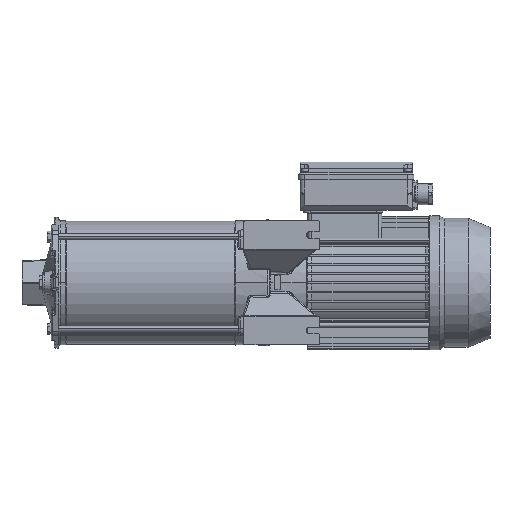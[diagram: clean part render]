
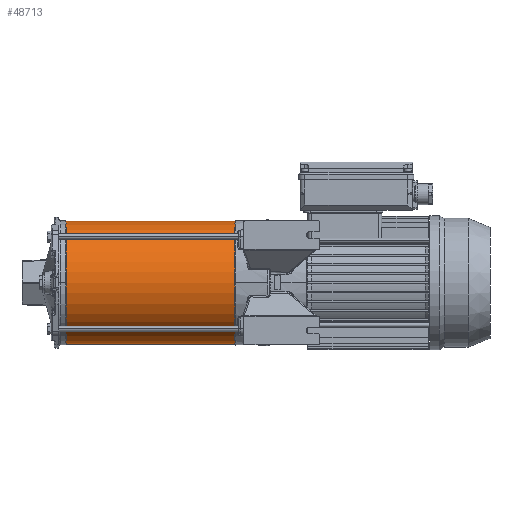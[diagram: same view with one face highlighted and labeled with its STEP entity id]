
A CAD part, front view. The second image highlights one B-rep face of the part: STEP entity #48713.
In plain terms, the highlighted cylindrical face has radius 64.5 mm (diameter 129 mm), a partial arc.
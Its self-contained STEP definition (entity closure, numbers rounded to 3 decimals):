
#48573=CARTESIAN_POINT('',(0.,0.,0.));
#48574=DIRECTION('',(0.,0.,1.));
#48575=DIRECTION('',(1.,0.,0.));
#48576=AXIS2_PLACEMENT_3D('',#48573,#48574,#48575);
#48605=DIRECTION('',(0.,0.,1.));
#48606=VECTOR('',#48605,176.8);
#48607=CARTESIAN_POINT('',(64.5,0.,0.));
#48608=LINE('',#48607,#48606);
#48612=DIRECTION('',(0.,0.,1.));
#48613=VECTOR('',#48612,176.8);
#48614=CARTESIAN_POINT('',(-64.5,0.,0.));
#48615=LINE('',#48614,#48613);
#48619=CARTESIAN_POINT('',(0.,0.,176.8));
#48620=DIRECTION('',(0.,0.,1.));
#48621=DIRECTION('',(1.,0.,0.));
#48622=AXIS2_PLACEMENT_3D('',#48619,#48620,#48621);
#48665=CARTESIAN_POINT('',(64.5,0.,0.));
#48666=CARTESIAN_POINT('',(-64.5,0.,0.));
#48667=VERTEX_POINT('',#48665);
#48668=VERTEX_POINT('',#48666);
#48673=CARTESIAN_POINT('',(64.5,0.,176.8));
#48674=CARTESIAN_POINT('',(-64.5,0.,176.8));
#48675=VERTEX_POINT('',#48673);
#48676=VERTEX_POINT('',#48674);
#48699=CARTESIAN_POINT('',(0.,0.,0.));
#48700=DIRECTION('',(0.,0.,1.));
#48701=DIRECTION('',(1.,0.,0.));
#48702=AXIS2_PLACEMENT_3D('',#48699,#48700,#48701);
#48703=CYLINDRICAL_SURFACE('',#48702,64.5);
#48704=ORIENTED_EDGE('',*,*,#48686,.F.);
#48706=ORIENTED_EDGE('',*,*,#48705,.T.);
#48708=ORIENTED_EDGE('',*,*,#48707,.T.);
#48710=ORIENTED_EDGE('',*,*,#48709,.F.);
#48711=EDGE_LOOP('',(#48704,#48706,#48708,#48710));
#48712=FACE_OUTER_BOUND('',#48711,.F.);
#48577=CIRCLE('',#48576,64.5);
#48623=CIRCLE('',#48622,64.5);
#48686=EDGE_CURVE('',#48667,#48668,#48577,.T.);
#48705=EDGE_CURVE('',#48667,#48675,#48608,.T.);
#48707=EDGE_CURVE('',#48675,#48676,#48623,.T.);
#48709=EDGE_CURVE('',#48668,#48676,#48615,.T.);
#48713=ADVANCED_FACE('',(#48712),#48703,.T.);
